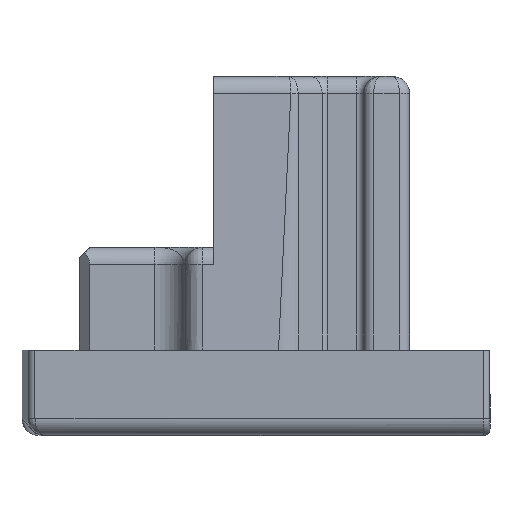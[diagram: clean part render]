
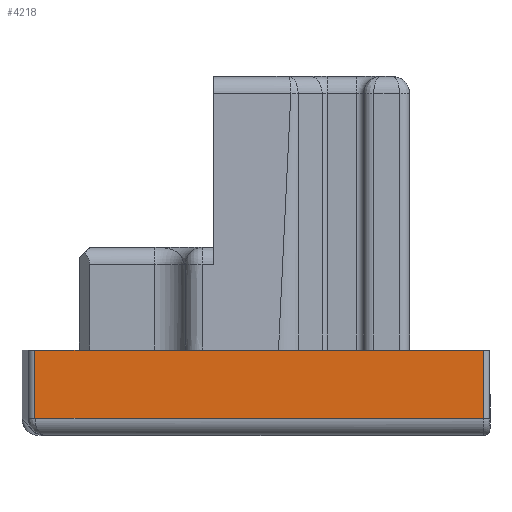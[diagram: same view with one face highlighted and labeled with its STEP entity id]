
A CAD part, left-side view. The second image highlights one B-rep face of the part: STEP entity #4218.
In plain terms, the highlighted planar face has unit normal (-1, 0, 0).
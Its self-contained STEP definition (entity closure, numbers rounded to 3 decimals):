
#149 = VECTOR ( 'NONE', #164, 1000. ) ;
#164 = DIRECTION ( 'NONE',  ( 0., 0., -1. ) ) ;
#209 = CARTESIAN_POINT ( 'NONE',  ( -10.25, 13.5, 2.5 ) ) ;
#456 = CARTESIAN_POINT ( 'NONE',  ( -10.25, 0.2, 2.5 ) ) ;
#966 = CARTESIAN_POINT ( 'NONE',  ( -10.25, 13.308, 2.5 ) ) ;
#1222 = CARTESIAN_POINT ( 'NONE',  ( -10.25, 13.5, 2.5 ) ) ;
#2015 = EDGE_CURVE ( 'NONE', #10938, #10423, #4348, .T. ) ;
#2030 = DIRECTION ( 'NONE',  ( 0., 1., 0. ) ) ;
#3477 = CARTESIAN_POINT ( 'NONE',  ( -10.25, 0.2, 2.5 ) ) ;
#3494 = ORIENTED_EDGE ( 'NONE', *, *, #8499, .T. ) ;
#3823 = FACE_OUTER_BOUND ( 'NONE', #4692, .T. ) ;
#3876 = DIRECTION ( 'NONE',  ( 1., 0., 0. ) ) ;
#4218 = ADVANCED_FACE ( 'NONE', ( #3823 ), #4711, .F. ) ;
#4348 = LINE ( 'NONE', #7846, #8221 ) ;
#4546 = EDGE_CURVE ( 'NONE', #9130, #6174, #5287, .T. ) ;
#4692 = EDGE_LOOP ( 'NONE', ( #6128, #6507, #9897, #3494 ) ) ;
#4711 = PLANE ( 'NONE',  #11016 ) ;
#5156 = LINE ( 'NONE', #3477, #8930 ) ;
#5287 = LINE ( 'NONE', #209, #5612 ) ;
#5612 = VECTOR ( 'NONE', #7220, 1000. ) ;
#6128 = ORIENTED_EDGE ( 'NONE', *, *, #2015, .T. ) ;
#6174 = VERTEX_POINT ( 'NONE', #456 ) ;
#6507 = ORIENTED_EDGE ( 'NONE', *, *, #10768, .T. ) ;
#7220 = DIRECTION ( 'NONE',  ( 0., -1., 0. ) ) ;
#7846 = CARTESIAN_POINT ( 'NONE',  ( -10.25, 13.5, 0.5 ) ) ;
#7903 = LINE ( 'NONE', #966, #149 ) ;
#8221 = VECTOR ( 'NONE', #10393, 1000. ) ;
#8499 = EDGE_CURVE ( 'NONE', #9130, #10938, #7903, .T. ) ;
#8610 = DIRECTION ( 'NONE',  ( 0., 0., 1. ) ) ;
#8930 = VECTOR ( 'NONE', #8610, 1000. ) ;
#9130 = VERTEX_POINT ( 'NONE', #10263 ) ;
#9198 = CARTESIAN_POINT ( 'NONE',  ( -10.25, 0.2, 0.5 ) ) ;
#9897 = ORIENTED_EDGE ( 'NONE', *, *, #4546, .F. ) ;
#10263 = CARTESIAN_POINT ( 'NONE',  ( -10.25, 13.308, 2.5 ) ) ;
#10393 = DIRECTION ( 'NONE',  ( 0., -1., 0. ) ) ;
#10423 = VERTEX_POINT ( 'NONE', #9198 ) ;
#10768 = EDGE_CURVE ( 'NONE', #10423, #6174, #5156, .T. ) ;
#10916 = CARTESIAN_POINT ( 'NONE',  ( -10.25, 13.308, 0.5 ) ) ;
#10938 = VERTEX_POINT ( 'NONE', #10916 ) ;
#11016 = AXIS2_PLACEMENT_3D ( 'NONE', #1222, #3876, #2030 ) ;
